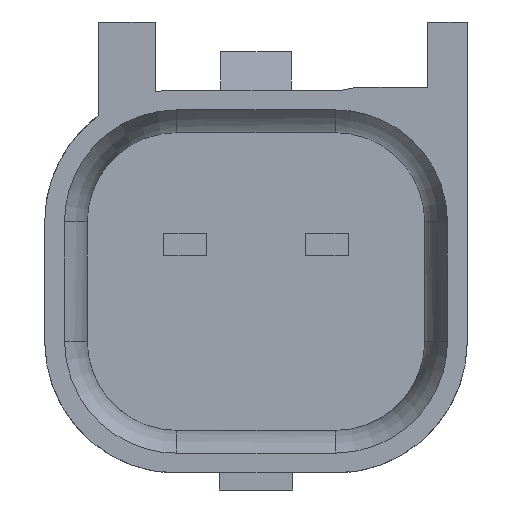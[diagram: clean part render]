
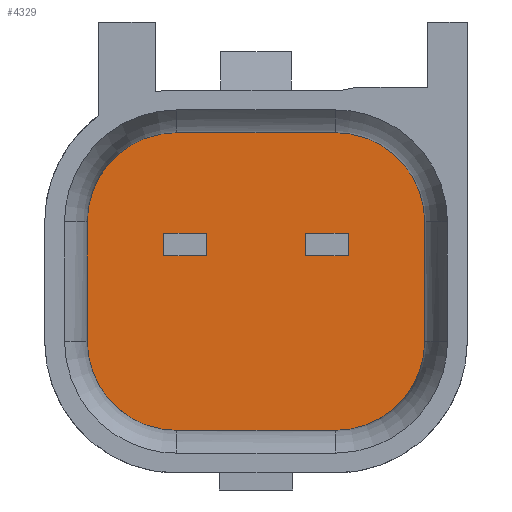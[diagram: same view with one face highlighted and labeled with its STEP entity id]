
A CAD part, left-side view. The second image highlights one B-rep face of the part: STEP entity #4329.
In plain terms, the highlighted planar face has unit normal (-1, 0, 0).
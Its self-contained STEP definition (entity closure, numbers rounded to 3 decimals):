
#3571=AXIS2_PLACEMENT_3D('Circle Axis2P3D',#3569,#3570,$) ;
#3753=AXIS2_PLACEMENT_3D('Circle Axis2P3D',#3751,#3752,$) ;
#4249=AXIS2_PLACEMENT_3D('Plane Axis2P3D',#4246,#4247,#4248) ;
#3542=CARTESIAN_POINT('Vertex',(0.,2.8,5.25)) ;
#3545=CARTESIAN_POINT('Line Origine',(0.,0.,5.25)) ;
#3549=CARTESIAN_POINT('Vertex',(0.,-2.8,5.25)) ;
#3569=CARTESIAN_POINT('Axis2P3D Location',(0.,-2.8,2.1)) ;
#3573=CARTESIAN_POINT('Vertex',(0.,-5.95,2.1)) ;
#3593=CARTESIAN_POINT('Line Origine',(0.,-5.95,0.)) ;
#3597=CARTESIAN_POINT('Vertex',(0.,-5.95,-2.1)) ;
#3632=CARTESIAN_POINT('Control Point',(0.,-5.95,-2.1)) ;
#3633=CARTESIAN_POINT('Control Point',(0.,-5.95,-2.595)) ;
#3634=CARTESIAN_POINT('Control Point',(0.,-5.853,-3.09)) ;
#3635=CARTESIAN_POINT('Control Point',(0.,-5.658,-3.559)) ;
#3636=CARTESIAN_POINT('Control Point',(0.,-5.096,-4.396)) ;
#3637=CARTESIAN_POINT('Control Point',(0.,-4.259,-4.958)) ;
#3638=CARTESIAN_POINT('Control Point',(0.,-3.79,-5.153)) ;
#3639=CARTESIAN_POINT('Control Point',(0.,-3.295,-5.25)) ;
#3640=CARTESIAN_POINT('Control Point',(0.,-2.8,-5.25)) ;
#3641=CARTESIAN_POINT('Vertex',(0.,-2.8,-5.25)) ;
#3660=CARTESIAN_POINT('Line Origine',(0.,0.,-5.25)) ;
#3664=CARTESIAN_POINT('Vertex',(0.,2.8,-5.25)) ;
#3699=CARTESIAN_POINT('Control Point',(0.,2.8,-5.25)) ;
#3700=CARTESIAN_POINT('Control Point',(0.,3.295,-5.25)) ;
#3701=CARTESIAN_POINT('Control Point',(0.,3.79,-5.153)) ;
#3702=CARTESIAN_POINT('Control Point',(0.,4.259,-4.958)) ;
#3703=CARTESIAN_POINT('Control Point',(0.,5.096,-4.396)) ;
#3704=CARTESIAN_POINT('Control Point',(0.,5.658,-3.559)) ;
#3705=CARTESIAN_POINT('Control Point',(0.,5.853,-3.09)) ;
#3706=CARTESIAN_POINT('Control Point',(0.,5.95,-2.595)) ;
#3707=CARTESIAN_POINT('Control Point',(0.,5.95,-2.1)) ;
#3708=CARTESIAN_POINT('Vertex',(0.,5.95,-2.1)) ;
#3727=CARTESIAN_POINT('Line Origine',(0.,5.95,0.)) ;
#3731=CARTESIAN_POINT('Vertex',(0.,5.95,2.1)) ;
#3751=CARTESIAN_POINT('Axis2P3D Location',(0.,2.8,2.1)) ;
#4246=CARTESIAN_POINT('Axis2P3D Location',(0.,0.,5.25)) ;
#4261=CARTESIAN_POINT('Line Origine',(0.,-3.25,1.3)) ;
#4265=CARTESIAN_POINT('Vertex',(0.,-3.25,0.9)) ;
#4267=CARTESIAN_POINT('Vertex',(0.,-3.25,1.7)) ;
#4270=CARTESIAN_POINT('Line Origine',(0.,-2.5,0.9)) ;
#4274=CARTESIAN_POINT('Vertex',(0.,-1.75,0.9)) ;
#4277=CARTESIAN_POINT('Line Origine',(0.,-1.75,1.3)) ;
#4281=CARTESIAN_POINT('Vertex',(0.,-1.75,1.7)) ;
#4284=CARTESIAN_POINT('Line Origine',(0.,-2.5,1.7)) ;
#4295=CARTESIAN_POINT('Line Origine',(0.,1.75,1.3)) ;
#4299=CARTESIAN_POINT('Vertex',(0.,1.75,0.9)) ;
#4301=CARTESIAN_POINT('Vertex',(0.,1.75,1.7)) ;
#4304=CARTESIAN_POINT('Line Origine',(0.,2.5,0.9)) ;
#4308=CARTESIAN_POINT('Vertex',(0.,3.25,0.9)) ;
#4311=CARTESIAN_POINT('Line Origine',(0.,3.25,1.3)) ;
#4315=CARTESIAN_POINT('Vertex',(0.,3.25,1.7)) ;
#4318=CARTESIAN_POINT('Line Origine',(0.,2.5,1.7)) ;
#3546=DIRECTION('Vector Direction',(0.,1.,0.)) ;
#3570=DIRECTION('Axis2P3D Direction',(-1.,-0.,0.)) ;
#3594=DIRECTION('Vector Direction',(0.,0.,-1.)) ;
#3661=DIRECTION('Vector Direction',(0.,1.,0.)) ;
#3728=DIRECTION('Vector Direction',(0.,0.,-1.)) ;
#3752=DIRECTION('Axis2P3D Direction',(-1.,0.,0.)) ;
#4247=DIRECTION('Axis2P3D Direction',(1.,-0.,0.)) ;
#4248=DIRECTION('Axis2P3D XDirection',(0.,0.,-1.)) ;
#4262=DIRECTION('Vector Direction',(0.,0.,1.)) ;
#4271=DIRECTION('Vector Direction',(0.,1.,0.)) ;
#4278=DIRECTION('Vector Direction',(0.,0.,-1.)) ;
#4285=DIRECTION('Vector Direction',(0.,-1.,0.)) ;
#4296=DIRECTION('Vector Direction',(0.,0.,1.)) ;
#4305=DIRECTION('Vector Direction',(0.,1.,0.)) ;
#4312=DIRECTION('Vector Direction',(0.,0.,-1.)) ;
#4319=DIRECTION('Vector Direction',(0.,-1.,0.)) ;
#3547=VECTOR('Line Direction',#3546,1.) ;
#3595=VECTOR('Line Direction',#3594,1.) ;
#3662=VECTOR('Line Direction',#3661,1.) ;
#3729=VECTOR('Line Direction',#3728,1.) ;
#4263=VECTOR('Line Direction',#4262,1.) ;
#4272=VECTOR('Line Direction',#4271,1.) ;
#4279=VECTOR('Line Direction',#4278,1.) ;
#4286=VECTOR('Line Direction',#4285,1.) ;
#4297=VECTOR('Line Direction',#4296,1.) ;
#4306=VECTOR('Line Direction',#4305,1.) ;
#4313=VECTOR('Line Direction',#4312,1.) ;
#4320=VECTOR('Line Direction',#4319,1.) ;
#4252=ORIENTED_EDGE('',*,*,#3710,.T.) ;
#4253=ORIENTED_EDGE('',*,*,#3666,.F.) ;
#4254=ORIENTED_EDGE('',*,*,#3643,.T.) ;
#4255=ORIENTED_EDGE('',*,*,#3599,.F.) ;
#4256=ORIENTED_EDGE('',*,*,#3575,.T.) ;
#4257=ORIENTED_EDGE('',*,*,#3551,.T.) ;
#4258=ORIENTED_EDGE('',*,*,#3755,.T.) ;
#4259=ORIENTED_EDGE('',*,*,#3733,.T.) ;
#4290=ORIENTED_EDGE('',*,*,#4269,.F.) ;
#4291=ORIENTED_EDGE('',*,*,#4276,.T.) ;
#4292=ORIENTED_EDGE('',*,*,#4283,.F.) ;
#4293=ORIENTED_EDGE('',*,*,#4288,.T.) ;
#4324=ORIENTED_EDGE('',*,*,#4303,.F.) ;
#4325=ORIENTED_EDGE('',*,*,#4310,.T.) ;
#4326=ORIENTED_EDGE('',*,*,#4317,.F.) ;
#4327=ORIENTED_EDGE('',*,*,#4322,.T.) ;
#4294=FACE_BOUND('',#4289,.T.) ;
#4328=FACE_BOUND('',#4323,.T.) ;
#4329=ADVANCED_FACE('BODY',(#4260,#4294,#4328),#4250,.F.) ;
#3631=B_SPLINE_CURVE_WITH_KNOTS('',5,(#3632,#3633,#3634,#3635,#3636,#3637,#3638,#3639,#3640),.UNSPECIFIED.,.F.,.U.,(6,3,6),(0.,2.506,5.012),.UNSPECIFIED.) ;
#3698=B_SPLINE_CURVE_WITH_KNOTS('',5,(#3699,#3700,#3701,#3702,#3703,#3704,#3705,#3706,#3707),.UNSPECIFIED.,.F.,.U.,(6,3,6),(0.,2.506,5.012),.UNSPECIFIED.) ;
#3572=CIRCLE('generated circle',#3571,3.15) ;
#3754=CIRCLE('generated circle',#3753,3.15) ;
#3551=EDGE_CURVE('',#3550,#3543,#3548,.T.) ;
#3575=EDGE_CURVE('',#3574,#3550,#3572,.T.) ;
#3599=EDGE_CURVE('',#3574,#3598,#3596,.T.) ;
#3643=EDGE_CURVE('',#3642,#3598,#3631,.F.) ;
#3666=EDGE_CURVE('',#3642,#3665,#3663,.T.) ;
#3710=EDGE_CURVE('',#3709,#3665,#3698,.F.) ;
#3733=EDGE_CURVE('',#3732,#3709,#3730,.T.) ;
#3755=EDGE_CURVE('',#3543,#3732,#3754,.T.) ;
#4269=EDGE_CURVE('',#4266,#4268,#4264,.T.) ;
#4276=EDGE_CURVE('',#4266,#4275,#4273,.T.) ;
#4283=EDGE_CURVE('',#4282,#4275,#4280,.T.) ;
#4288=EDGE_CURVE('',#4282,#4268,#4287,.T.) ;
#4303=EDGE_CURVE('',#4300,#4302,#4298,.T.) ;
#4310=EDGE_CURVE('',#4300,#4309,#4307,.T.) ;
#4317=EDGE_CURVE('',#4316,#4309,#4314,.T.) ;
#4322=EDGE_CURVE('',#4316,#4302,#4321,.T.) ;
#4251=EDGE_LOOP('',(#4252,#4253,#4254,#4255,#4256,#4257,#4258,#4259)) ;
#4289=EDGE_LOOP('',(#4290,#4291,#4292,#4293)) ;
#4323=EDGE_LOOP('',(#4324,#4325,#4326,#4327)) ;
#4260=FACE_OUTER_BOUND('',#4251,.T.) ;
#3548=LINE('Line',#3545,#3547) ;
#3596=LINE('Line',#3593,#3595) ;
#3663=LINE('Line',#3660,#3662) ;
#3730=LINE('Line',#3727,#3729) ;
#4264=LINE('Line',#4261,#4263) ;
#4273=LINE('Line',#4270,#4272) ;
#4280=LINE('Line',#4277,#4279) ;
#4287=LINE('Line',#4284,#4286) ;
#4298=LINE('Line',#4295,#4297) ;
#4307=LINE('Line',#4304,#4306) ;
#4314=LINE('Line',#4311,#4313) ;
#4321=LINE('Line',#4318,#4320) ;
#4250=PLANE('',#4249) ;
#3543=VERTEX_POINT('',#3542) ;
#3550=VERTEX_POINT('',#3549) ;
#3574=VERTEX_POINT('',#3573) ;
#3598=VERTEX_POINT('',#3597) ;
#3642=VERTEX_POINT('',#3641) ;
#3665=VERTEX_POINT('',#3664) ;
#3709=VERTEX_POINT('',#3708) ;
#3732=VERTEX_POINT('',#3731) ;
#4266=VERTEX_POINT('',#4265) ;
#4268=VERTEX_POINT('',#4267) ;
#4275=VERTEX_POINT('',#4274) ;
#4282=VERTEX_POINT('',#4281) ;
#4300=VERTEX_POINT('',#4299) ;
#4302=VERTEX_POINT('',#4301) ;
#4309=VERTEX_POINT('',#4308) ;
#4316=VERTEX_POINT('',#4315) ;
